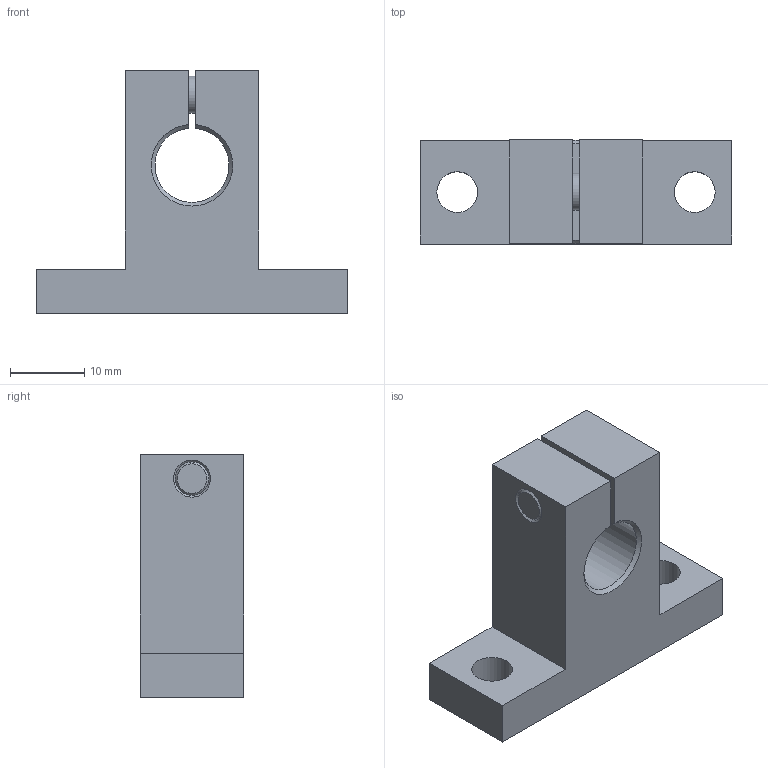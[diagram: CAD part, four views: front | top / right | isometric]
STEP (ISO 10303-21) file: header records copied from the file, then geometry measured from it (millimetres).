
FILE_DESCRIPTION( ( 'Unknown' ), '1' );
FILE_NAME( 'D:/累诀/己绕皋墨飘肺葱胶/11-04-06_档搁累己/04_箕橇飘/SK/SK 10.stp', 'Unknown', ( 'Unknown' ), ( 'Unknown' ), 'PSStep 11.0', 'Unknown', ' ' );
FILE_SCHEMA( ( 'AUTOMOTIVE_DESIGN { 1 0 10303 214 1 1 1 1 }' ) );
Length unit declared in the file: millimetre
Products named in the file (1): 1
Bounding box: 42 x 14 x 32.8 mm (x, y, z)
Volume: 8802.3 mm3; surface area: 4191.2 mm2
Topology: 1 solids, 1 shells, 36 faces, 90 edges, 60 vertices
Faces by surface type: plane 23, cylinder 7, cone 5, torus 1
Full cylindrical faces by diameter (mm): 2.08 x1, 5 x1, 5.5 x3, 5.61 x1
Entity records: 1312 total; most frequent: CARTESIAN_POINT 182, DIRECTION 166, ORIENTED_EDGE 152, EDGE_CURVE 76, AXIS2_PLACEMENT_3D 57, VERTEX_POINT 57, EDGE_LOOP 56, LINE 52
